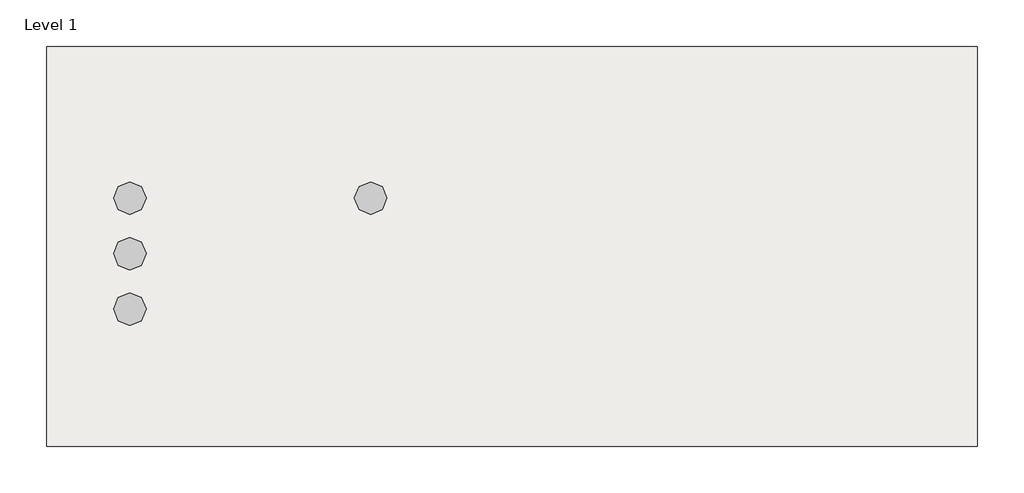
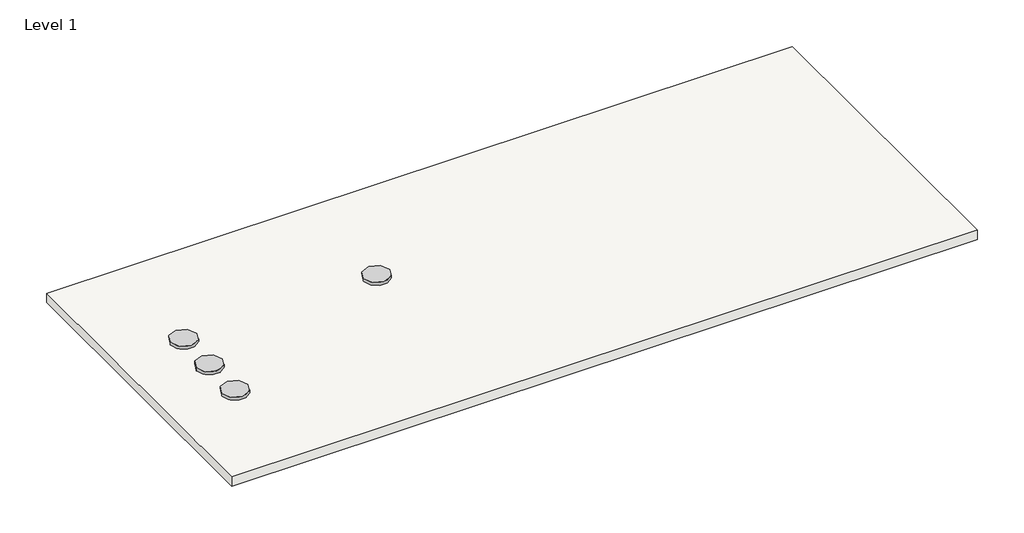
# One storey, incomplete: 4 proxies, 1 slab.
"""IFC4 building model written with IfcOpenShell, lengths in millimetres."""

from ifc_helpers import new_model, si_unit, frame, origin, place, context, project, spatial, polyline, outline, extrude, transform, mapped, element, save
from components import materialmodel_materialmodel_7e5ef11c

model = new_model("IFC4")

# Units and contexts
model_context = context("Model", 3, world=origin())
ifc_project = project(units=[si_unit("LENGTHUNIT", "METRE", prefix="MILLI")], contexts=[model_context])

# Site, building, storey
site = spatial("IfcSite", under=ifc_project)
building = spatial("IfcBuilding", under=site)
storey = spatial("IfcBuildingStorey", under=building, Name="Level 1", Elevation=0.0)

# Proxies
placement = place(None, origin())
materialmodel_materialmodel_shape = materialmodel_materialmodel_7e5ef11c(model_context)
element("IfcBuildingElementProxy", 1, Name="MaterialModel : MaterialModel", ObjectType="MaterialModel : MaterialModel", at=placement, inside=storey, context=model_context, shape_type="MappedRepresentation", body=[
    mapped(materialmodel_materialmodel_shape, transform((-10936.3134364, 8386.0981081, 0.0), x_axis=(1.0, 0.0, 0.0), y_axis=(0.0, 1.0, 0.0), z_axis=(0.0, 0.0, 1.0))),
])
element("IfcBuildingElementProxy", 2, Name="MaterialModel : MaterialModel", ObjectType="MaterialModel : MaterialModel", at=placement, inside=storey, context=model_context, shape_type="MappedRepresentation", body=[
    mapped(materialmodel_materialmodel_shape, transform((-13884.795037, 8386.0981081, 0.0), x_axis=(1.0, 0.0, 0.0), y_axis=(0.0, 1.0, 0.0), z_axis=(0.0, 0.0, 1.0))),
])
element("IfcBuildingElementProxy", 3, Name="MaterialModel : MaterialModel", ObjectType="MaterialModel : MaterialModel", at=placement, inside=storey, context=model_context, shape_type="MappedRepresentation", body=[
    mapped(materialmodel_materialmodel_shape, transform((-13884.795037, 7706.0981081, 0.0), x_axis=(1.0, 0.0, 0.0), y_axis=(0.0, 1.0, 0.0), z_axis=(0.0, 0.0, 1.0))),
])
element("IfcBuildingElementProxy", 4, Name="MaterialModel : MaterialModel", ObjectType="MaterialModel : MaterialModel", at=placement, inside=storey, context=model_context, shape_type="MappedRepresentation", body=[
    mapped(materialmodel_materialmodel_shape, transform((-13884.795037, 7026.0981081, 0.0), x_axis=(1.0, 0.0, 0.0), y_axis=(0.0, 1.0, 0.0), z_axis=(0.0, 0.0, 1.0))),
])

# Slab
element("IfcSlab", 5, ObjectType="Generic 150mm", at=placement, inside=storey, context=model_context, shape_type="SweptSolid", body=[
    extrude(outline(polyline([(-3504.795037, 10246.0981081), (-3504.795037, 5346.0981081), (-14904.795037, 5346.0981081), (-14904.795037, 10246.0981081), (-3504.795037, 10246.0981081)])), frame((0.0, 0.0, -150.0), z_axis=(0.0, 0.0, 1.0), x_axis=(1.0, 0.0, 0.0)), (0.0, 0.0, 1.0), 150.0),
])

save(model, "model.ifc")
